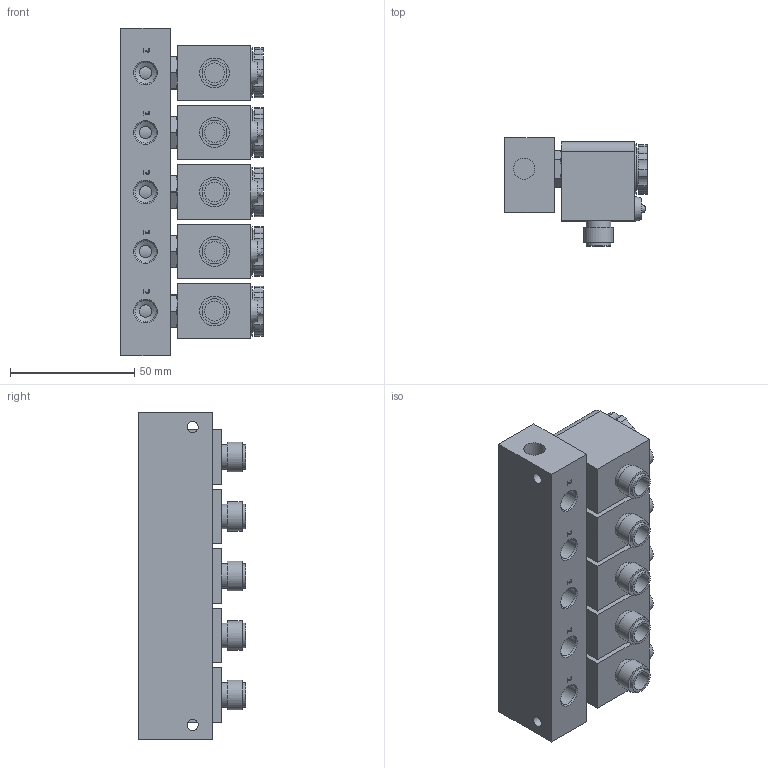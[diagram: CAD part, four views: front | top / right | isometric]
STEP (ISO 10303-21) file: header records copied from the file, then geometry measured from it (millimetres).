
FILE_DESCRIPTION (( 'STEP AP214' ), '1' );
FILE_NAME ('MSO-18-310_5-HN-O12_Airtec.step', '2018-12-14T07:42:31', ( '' ), ( '' ), 'SwSTEP 2.0', 'SolidWorks 2010', '' );
FILE_SCHEMA (( 'AUTOMOTIVE_DESIGN' ));
Length unit declared in the file: millimetre
Products named in the file (3): Volumenkörper4; Volumenkörper1; MSO-18-310_5-HN-O12_Airtec
Assembly tree (6 placements, depth 2):
  MSO-18-310_5-HN-O12_Airtec
    Volumenkörper4
    Volumenkörper1  x5
Bounding box: 57.45 x 43.5 x 132 mm (x, y, z)
Volume: 190596.3 mm3; surface area: 57506.4 mm2
Topology: 6 solids, 16 shells, 796 faces, 1887 edges, 1227 vertices
Faces by surface type: plane 290, cylinder 271, bspline 130, cone 85, torus 15, sphere 5
Full cylindrical faces by diameter (mm): 1 x5, 1.9 x10, 4.134 x5, 4.5 x2, 5 x10, 6.647 x5, 7.4 x2, 8 x10, 8.1 x5, 8.2 x5, 8.566 x7, 9.04 x10, 10 x10, 10.5 x5, 12 x5, 13.2 x5, 17.041 x5, 20.1 x5
Entity records: 28791 total; most frequent: CARTESIAN_POINT 8900, ORIENTED_EDGE 3022, DIRECTION 2875, EDGE_CURVE 1511, AXIS2_PLACEMENT_3D 1124, VERTEX_POINT 1070, EDGE_LOOP 993, FACE_OUTER_BOUND 832
